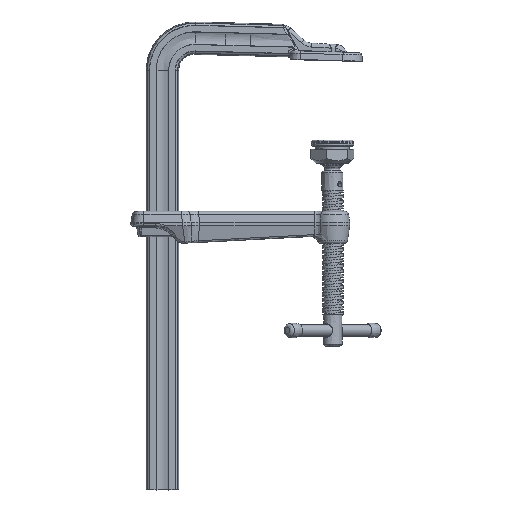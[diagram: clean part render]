
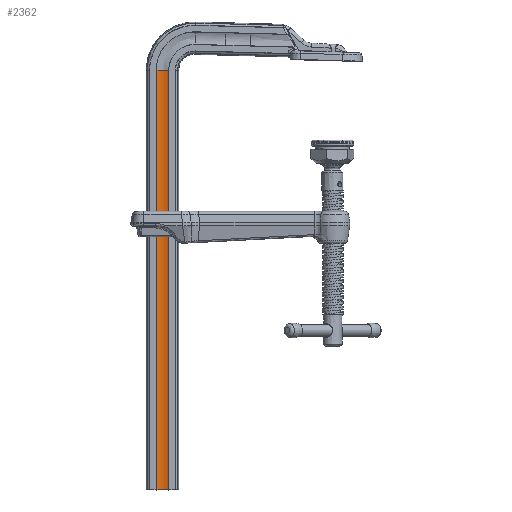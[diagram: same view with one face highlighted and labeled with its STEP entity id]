
A CAD part, front view. The second image highlights one B-rep face of the part: STEP entity #2362.
In plain terms, the highlighted free-form (B-spline) face has degree [1, 2] with [2, 3] control points.
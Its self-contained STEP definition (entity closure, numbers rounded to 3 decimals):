
#1808=CARTESIAN_POINT('',(-116.372,-7.383,-249.977));
#1809=VERTEX_POINT('',#1808);
#1817=CARTESIAN_POINT('',(-128.052,-7.383,-249.977));
#1818=VERTEX_POINT('',#1817);
#1819=CARTESIAN_POINT('',(-116.372,-7.383,-249.977));
#1820=CARTESIAN_POINT('',(-122.212,-4.44,-249.977));
#1821=CARTESIAN_POINT('',(-128.052,-7.383,-249.977));
#1822=(BOUNDED_CURVE()B_SPLINE_CURVE(2,(#1819,#1820,#1821),.CIRCULAR_ARC.,.F.,.U.)B_SPLINE_CURVE_WITH_KNOTS((3,3),(0.,1.),.UNSPECIFIED.)CURVE()GEOMETRIC_REPRESENTATION_ITEM()RATIONAL_B_SPLINE_CURVE((0.859,0.827,0.998))REPRESENTATION_ITEM(''));
#1823=EDGE_CURVE('',#1809,#1818,#1822,.T.);
#2318=CARTESIAN_POINT('',(-116.372,-7.383,144.423));
#2319=VERTEX_POINT('',#2318);
#2326=CARTESIAN_POINT('',(-116.372,-7.383,-249.977));
#2327=CARTESIAN_POINT('',(-116.372,-7.383,-225.817));
#2328=CARTESIAN_POINT('',(-116.372,-7.383,-152.217));
#2329=CARTESIAN_POINT('',(-116.372,-7.383,-53.337));
#2330=CARTESIAN_POINT('',(-116.372,-7.383,70.263));
#2331=CARTESIAN_POINT('',(-116.372,-7.383,144.423));
#2332=B_SPLINE_CURVE_WITH_KNOTS('',2,(#2326,#2327,#2328,#2329,#2330,#2331),.UNSPECIFIED.,.F.,.U.,(3,1,1,1,3),(0.336,0.418,0.584,0.75,1.),.UNSPECIFIED.);
#2333=EDGE_CURVE('',#1809,#2319,#2332,.T.);
#2338=CARTESIAN_POINT('',(-128.052,-7.383,144.423));
#2339=CARTESIAN_POINT('',(-122.212,-4.44,144.423));
#2340=CARTESIAN_POINT('',(-116.372,-7.383,144.423));
#2341=CARTESIAN_POINT('',(-128.052,-7.383,-649.977));
#2342=CARTESIAN_POINT('',(-122.212,-4.44,-649.977));
#2343=CARTESIAN_POINT('',(-116.372,-7.383,-649.977));
#2344=(BOUNDED_SURFACE()B_SPLINE_SURFACE(1,2,((#2338,#2339,#2340),(#2341,#2342,#2343)),.CYLINDRICAL_SURF.,.F.,.F.,.U.)B_SPLINE_SURFACE_WITH_KNOTS((2,2),(3,3),(0.,1.607),(0.001,0.148),.UNSPECIFIED.)GEOMETRIC_REPRESENTATION_ITEM()RATIONAL_B_SPLINE_SURFACE(((0.998,0.827,0.859),(0.998,0.827,0.859)))REPRESENTATION_ITEM('')SURFACE());
#2345=CARTESIAN_POINT('',(-128.052,-7.383,144.423));
#2346=VERTEX_POINT('',#2345);
#2347=CARTESIAN_POINT('',(-116.372,-7.383,144.423));
#2348=CARTESIAN_POINT('',(-122.212,-4.44,144.423));
#2349=CARTESIAN_POINT('',(-128.052,-7.383,144.423));
#2350=(BOUNDED_CURVE()B_SPLINE_CURVE(2,(#2347,#2348,#2349),.CIRCULAR_ARC.,.F.,.U.)B_SPLINE_CURVE_WITH_KNOTS((3,3),(0.001,0.148),.UNSPECIFIED.)CURVE()GEOMETRIC_REPRESENTATION_ITEM()RATIONAL_B_SPLINE_CURVE((0.859,0.827,0.998))REPRESENTATION_ITEM(''));
#2351=EDGE_CURVE('',#2319,#2346,#2350,.T.);
#2352=ORIENTED_EDGE('',*,*,#2351,.T.);
#2353=CARTESIAN_POINT('',(-128.052,-7.383,144.423));
#2354=CARTESIAN_POINT('',(-128.052,-7.383,-249.977));
#2355=(BOUNDED_CURVE()B_SPLINE_CURVE(1,(#2353,#2354),.POLYLINE_FORM.,.F.,.U.)B_SPLINE_CURVE_WITH_KNOTS((2,2),(0.,0.664),.UNSPECIFIED.)CURVE()GEOMETRIC_REPRESENTATION_ITEM()RATIONAL_B_SPLINE_CURVE((0.998,0.998))REPRESENTATION_ITEM(''));
#2356=EDGE_CURVE('',#2346,#1818,#2355,.T.);
#2357=ORIENTED_EDGE('',*,*,#2356,.T.);
#2358=ORIENTED_EDGE('',*,*,#1823,.F.);
#2359=ORIENTED_EDGE('',*,*,#2333,.T.);
#2360=EDGE_LOOP('',(#2352,#2357,#2358,#2359));
#2361=FACE_OUTER_BOUND('',#2360,.T.);
#2362=ADVANCED_FACE('',(#2361),#2344,.T.);
